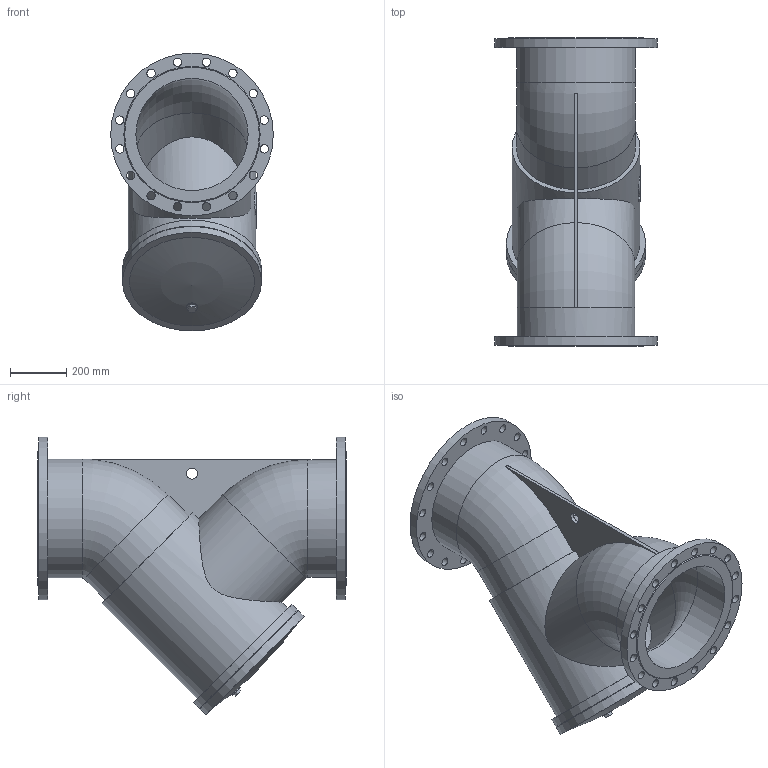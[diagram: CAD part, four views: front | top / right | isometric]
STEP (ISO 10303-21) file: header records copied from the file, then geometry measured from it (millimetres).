
FILE_DESCRIPTION(('STEP AP203'), '1');
FILE_NAME('Ôèëüòð ñåò÷àòûé ôëàíöåâûé 021Y DN400 PN16', '', ('UNSPECIFIED'), ('UNSPECIFIED'), 'ASCON STEP Converter 1.6', 'ASCON Math Kernel', '');
FILE_SCHEMA(('CONFIG_CONTROL_DESIGN'));
Length unit declared in the file: millimetre
Bounding box: 580 x 1100 x 990 mm (x, y, z)
Volume: 113079008.2 mm3; surface area: 4273830.7 mm2
Topology: 1 solids, 1 shells, 98 faces, 239 edges, 156 vertices
Faces by surface type: cylinder 56, plane 35, torus 4, cone 2, sphere 1
Full cylindrical faces by diameter (mm): 30 x32, 40 x2, 400 x4, 420 x1, 424 x1, 456 x1, 484 x1, 496 x2, 580 x2
Entity records: 4917 total; most frequent: CARTESIAN_POINT 1788, DIRECTION 483, ORIENTED_EDGE 370, EDGE_LOOP 230, AXIS2_PLACEMENT_3D 214, EDGE_CURVE 185, VERTEX_POINT 155, FACE_BOUND 131
